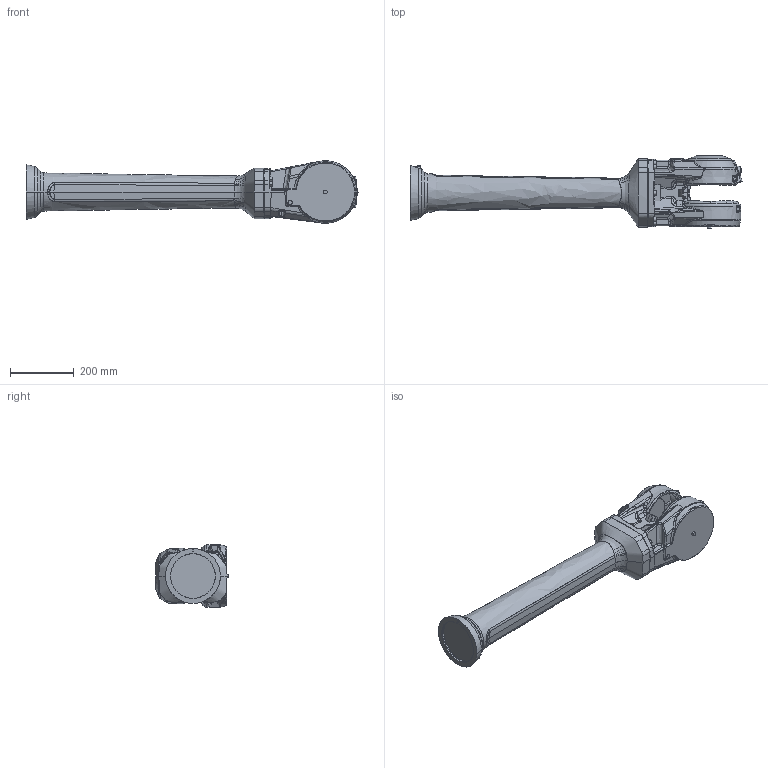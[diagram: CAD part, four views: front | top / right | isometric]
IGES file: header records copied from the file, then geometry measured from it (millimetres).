
Start section: SolidWorks IGES file using analytic representation for surfaces
Global section: file name: C:\Data\SAP_DOC\_2016-Q4_Lättmodeller RobCal\CAD Model_IRB4600_Rev04\IRB4600_40kg-255_IRC5_rev04\IRB4600_40kg-255_IRC5_rev04_IRC5_IGES_j\IRB4600_40kg-255_LINK4_CAD_rev04.IGS; native system: SolidWorks 2014; preprocessor: SolidWorks 2014; author: SEMAAXM; date: 161206.112834; units: millimetre
Bounding box: 1040.73 x 228 x 195.91 mm (x, y, z)
Surface area: 636134 mm2 (no closed solid volume)
Topology: 0 solids, 0 shells, 774 faces, 10103 edges, 10092 vertices
Faces by surface type: bspline 499, revolution 275
